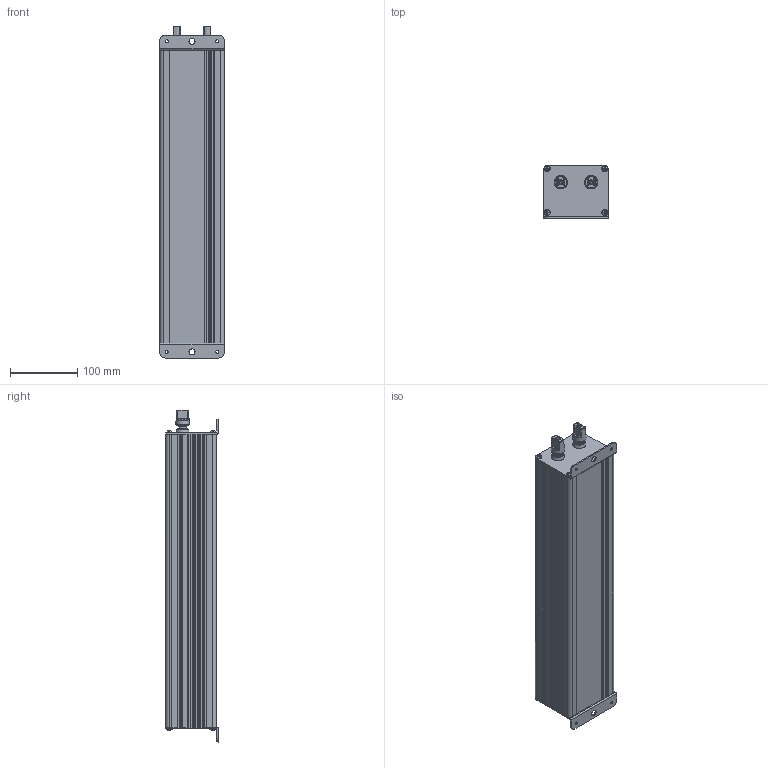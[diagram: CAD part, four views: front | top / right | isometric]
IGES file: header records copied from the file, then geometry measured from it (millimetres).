
Global section: file name: LB-11V90AH; native system: Autodesk Inventor 2021; preprocessor: unknown; author: eunsol jang; date: 20221208.155131; units: inch
Bounding box: 95.5 x 78.2 x 492.7 mm (x, y, z)
Volume: 459415.6 mm3; surface area: 371724.6 mm2
Topology: 1 solids, 1 shells, 518 faces, 1478 edges, 970 vertices
Faces by surface type: bspline 518
